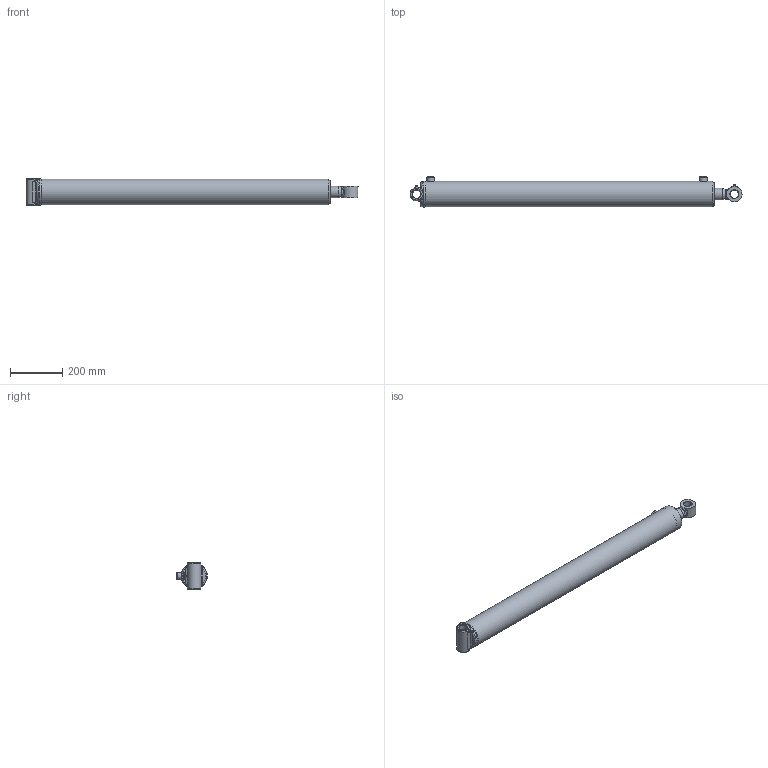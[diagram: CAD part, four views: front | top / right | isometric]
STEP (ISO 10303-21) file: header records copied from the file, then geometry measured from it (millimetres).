
FILE_DESCRIPTION(/* description */ ('Ø3.50 X 40.00 DA'),/* implementation_level */ '2;1');
FILE_NAME(/* name */ 'result.stp',/* time_stamp */ '2023-11-07T22:00:33Z',/* author */ ('AJC'),/* organization */ ('PRINCE MANUFACTURING'),/* preprocessor_version */ 'ST-DEVELOPER v20',/* originating_system */ 'Autodesk Inventor 2024',/* authorisation */ '');
FILE_SCHEMA (('AUTOMOTIVE_DESIGN { 1 0 10303 214 3 1 1 }'));
Length unit declared in the file: inch
Products named in the file (21): PC3540017A00-480XYXA; 0617-XYSF000-43570; 0517-T-43570; 161700179; 200015603; 06Weld1_C360; 0717-P-100; 220000210; 0817-G-175; 230025105; 230025005; 240000022; 240061338; 240000338; 0210A-HAW5-45687XA; 0110A-HAW5-45687; 210600529; 02Weld_C360; 240020007; 250014175; 270010020
Assembly tree (22 placements, depth 3):
  PC3540017A00-480XYXA
    0617-XYSF000-43570
      0517-T-43570
      161700179
      200015603  x2
      06Weld1_C360
    0717-P-100
    220000210
    0817-G-175
    230025105
    230025005
    240000022
    240061338
    240000338
    0210A-HAW5-45687XA
      0110A-HAW5-45687
      210600529
      02Weld_C360
    240020007
    250014175
    270010020  x2
Bounding box: 1274.72 x 116.74 x 101.6 mm (x, y, z)
Volume: 3978176 mm3; surface area: 1002810 mm2
Topology: 26 solids, 26 shells, 536 faces, 1281 edges, 823 vertices
Faces by surface type: plane 144, bspline 128, torus 89, cylinder 87, cone 84, sphere 4
Full cylindrical faces by diameter (mm): 2.143 x4, 3.175 x1, 5.359 x2, 6.35 x2, 9.525 x2, 12.649 x1, 12.7 x1, 12.725 x1, 17.323 x2, 23.444 x1, 25.349 x1, 25.476 x1, 27.965 x1, 28.575 x2, 32.131 x2, 44.45 x1, 44.526 x2, 45.644 x2, 46.482 x1, 46.838 x1, 51.613 x1, 52.807 x1, 54 x1, 55.626 x2, 57.15 x2, 61.976 x1, 69.85 x2, 79.477 x2, 80.213 x2, 83.82 x1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
Entity records: 29468 total; most frequent: CARTESIAN_POINT 17326, ORIENTED_EDGE 2352, DIRECTION 2142, EDGE_CURVE 1176, AXIS2_PLACEMENT_3D 908, VERTEX_POINT 762, EDGE_LOOP 572, FACE_OUTER_BOUND 492
